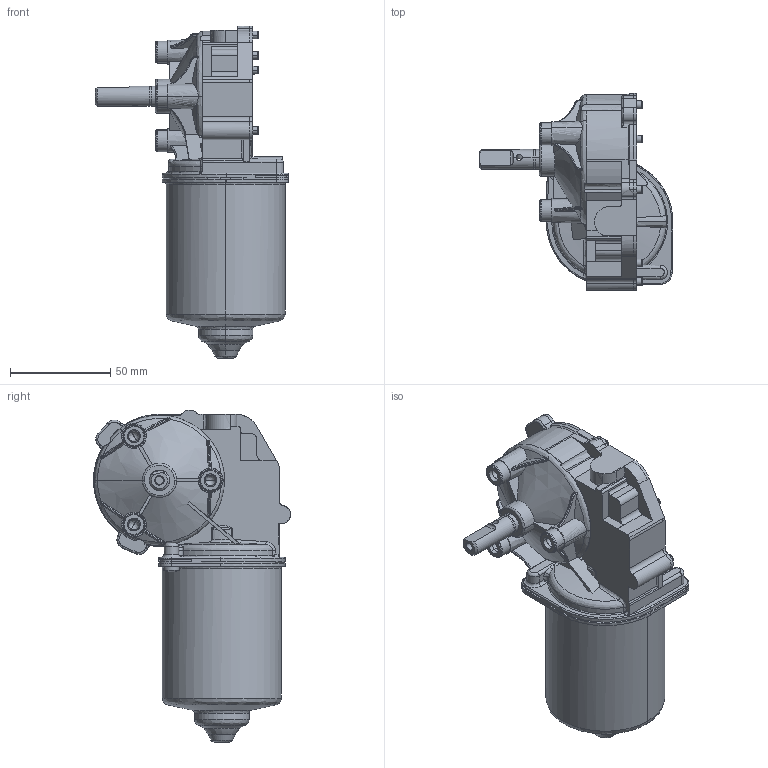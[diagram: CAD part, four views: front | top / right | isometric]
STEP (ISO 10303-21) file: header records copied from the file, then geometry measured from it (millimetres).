
FILE_DESCRIPTION (( 'STEP AP214' ), '1' );
FILE_NAME ('404991.step', '2018-03-15T08:12:16', ( '' ), ( '' ), 'SwSTEP 2.0', 'SolidWorks 2010', '' );
FILE_SCHEMA (( 'AUTOMOTIVE_DESIGN' ));
Length unit declared in the file: millimetre
Products named in the file (3): 404991; Shaft-W40-KGK; Motor-DCK31-Left-KGK
Assembly tree (2 placements, depth 2):
  404991
    Shaft-W40-KGK
    Motor-DCK31-Left-KGK
Bounding box: 96.5 x 98.05 x 165.2 mm (x, y, z)
Volume: 224331.4 mm3; surface area: 68296.1 mm2
Topology: 2 solids, 2 shells, 634 faces, 2134 edges, 1513 vertices
Faces by surface type: bspline 446, plane 173, cylinder 12, cone 3
Entity records: 49393 total; most frequent: CARTESIAN_POINT 35929, ORIENTED_EDGE 4230, EDGE_CURVE 2115, B_SPLINE_CURVE_WITH_KNOTS 2028, VERTEX_POINT 1513, EDGE_LOOP 672, ADVANCED_FACE 634, FACE_OUTER_BOUND 634
